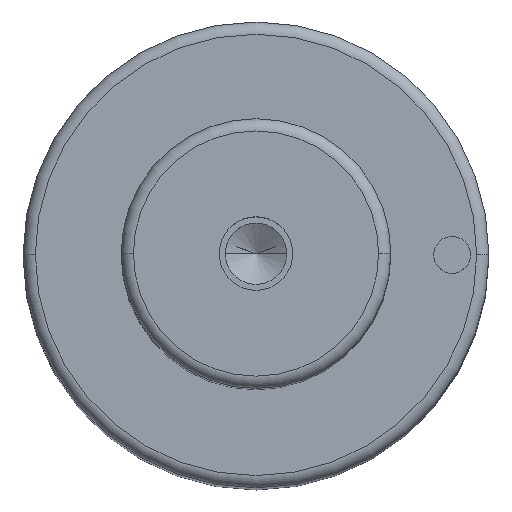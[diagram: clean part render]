
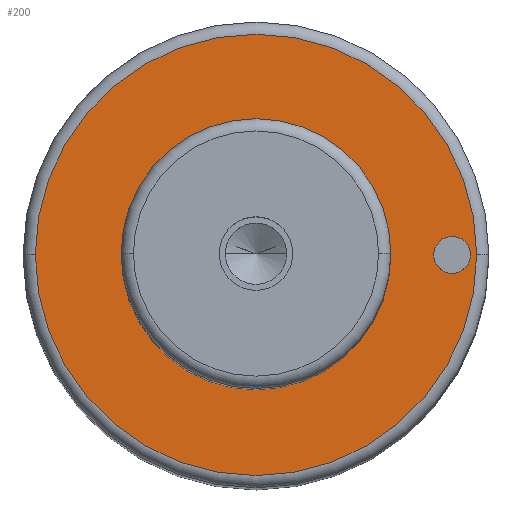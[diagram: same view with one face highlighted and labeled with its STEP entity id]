
A CAD part, top view. The second image highlights one B-rep face of the part: STEP entity #200.
In plain terms, the highlighted planar face has unit normal (0, 0, 1).
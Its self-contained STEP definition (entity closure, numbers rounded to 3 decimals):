
#99=PLANE('',#596);
#107=FACE_BOUND('',#265,.T.);
#108=FACE_BOUND('',#266,.T.);
#109=FACE_BOUND('',#267,.T.);
#200=ADVANCED_FACE('',(#107,#108,#109),#99,.T.);
#265=EDGE_LOOP('',(#359,#360));
#266=EDGE_LOOP('',(#361,#362));
#267=EDGE_LOOP('',(#363,#364));
#359=ORIENTED_EDGE('',*,*,#460,.F.);
#360=ORIENTED_EDGE('',*,*,#461,.F.);
#361=ORIENTED_EDGE('',*,*,#485,.F.);
#362=ORIENTED_EDGE('',*,*,#486,.F.);
#363=ORIENTED_EDGE('',*,*,#456,.T.);
#364=ORIENTED_EDGE('',*,*,#454,.T.);
#411=VERTEX_POINT('',#808);
#412=VERTEX_POINT('',#810);
#413=VERTEX_POINT('',#816);
#416=VERTEX_POINT('',#821);
#430=VERTEX_POINT('',#875);
#431=VERTEX_POINT('',#876);
#454=EDGE_CURVE('',#412,#411,#513,.T.);
#456=EDGE_CURVE('',#411,#412,#514,.T.);
#460=EDGE_CURVE('',#416,#413,#518,.T.);
#461=EDGE_CURVE('',#413,#416,#519,.T.);
#485=EDGE_CURVE('',#430,#431,#533,.T.);
#486=EDGE_CURVE('',#431,#430,#534,.T.);
#513=CIRCLE('',#558,11.);
#514=CIRCLE('',#560,11.);
#518=CIRCLE('',#565,18.);
#519=CIRCLE('',#567,18.);
#533=CIRCLE('',#594,1.5);
#534=CIRCLE('',#595,1.5);
#558=AXIS2_PLACEMENT_3D('',#809,#647,#648);
#560=AXIS2_PLACEMENT_3D('',#813,#652,#653);
#565=AXIS2_PLACEMENT_3D('',#822,#662,#663);
#567=AXIS2_PLACEMENT_3D('',#824,#666,#667);
#594=AXIS2_PLACEMENT_3D('',#874,#730,#731);
#595=AXIS2_PLACEMENT_3D('',#877,#732,#733);
#596=AXIS2_PLACEMENT_3D('',#878,#734,#735);
#647=DIRECTION('',(0.,0.,-1.));
#648=DIRECTION('',(0.,1.,0.));
#652=DIRECTION('',(0.,0.,-1.));
#653=DIRECTION('',(0.,-1.,0.));
#662=DIRECTION('',(0.,0.,-1.));
#663=DIRECTION('',(0.,1.,0.));
#666=DIRECTION('',(0.,0.,-1.));
#667=DIRECTION('',(0.,-1.,0.));
#730=DIRECTION('',(0.,0.,1.));
#731=DIRECTION('',(0.,1.,0.));
#732=DIRECTION('',(0.,0.,1.));
#733=DIRECTION('',(0.,-1.,0.));
#734=DIRECTION('',(0.,0.,1.));
#735=DIRECTION('',(0.,-1.,0.));
#808=CARTESIAN_POINT('',(-11.,0.,101.));
#809=CARTESIAN_POINT('',(0.,0.,101.));
#810=CARTESIAN_POINT('',(11.,0.,101.));
#813=CARTESIAN_POINT('',(0.,0.,101.));
#816=CARTESIAN_POINT('',(-18.,0.,101.));
#821=CARTESIAN_POINT('',(18.,0.,101.));
#822=CARTESIAN_POINT('',(0.,0.,101.));
#824=CARTESIAN_POINT('',(0.,0.,101.));
#874=CARTESIAN_POINT('',(16.,0.,101.));
#875=CARTESIAN_POINT('',(14.5,0.,101.));
#876=CARTESIAN_POINT('',(17.5,0.,101.));
#877=CARTESIAN_POINT('',(16.,0.,101.));
#878=CARTESIAN_POINT('',(0.,0.,101.));
